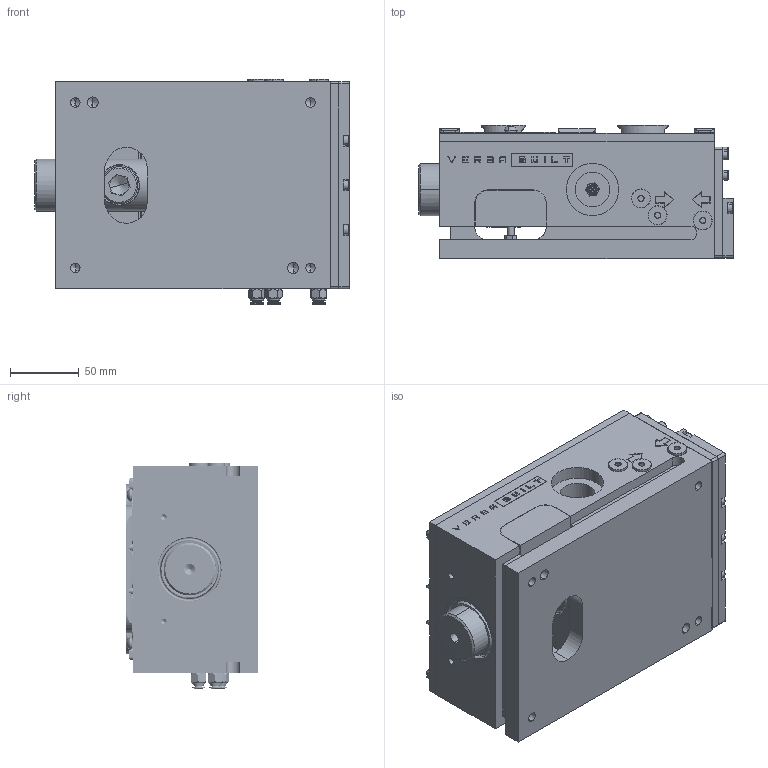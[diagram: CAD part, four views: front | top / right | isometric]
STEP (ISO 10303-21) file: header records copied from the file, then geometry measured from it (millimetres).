
FILE_DESCRIPTION (( 'STEP AP203' ), '1' );
FILE_NAME ('VERSABUILT MULTIGRIP VISE 2000 - STEEL TOP - 2025-05-14.STEP', '2025-05-15T15:00:11', ( '' ), ( '' ), 'SwSTEP 2.0', 'SolidWorks 2019', '' );
FILE_SCHEMA (( 'CONFIG_CONTROL_DESIGN' ));
Length unit declared in the file: inch
Products named in the file (34): M5 DOWEL PIN_DP M5 X 16mm; M5x0.8 HHCS_HHCS M5x0.8x16-C; M4x0.7 SHCS_SHCS M4-0.7 x 16; M5X0.80 BHCS_BHCS M5x0.8 x 10mm; 5014868_As Machined; 5008611_As Machined; 5008505_9452K24; M10x1.5 SHCS_SHCS M10-1.5 x 20 - LOW PROFILE; M8x1.25 FHCS_FHCS M8x1.25x12-C; M8x1.25 FHCS_FHCS M8x1.25x22-C; M4x0.7 SET SCREW_5011514; 5001681_51495K182; 5009563_MG 100 PISTON; 5014882_As Machined; 5010570_Default Configuration; 5010088_Default Configuration; 5013217_1095K111; M5x0.8 FHCS_M5x0.8 FHCS x 8mm; 5011369_Default Configuration; 5009523_Default Configuration; 5009520_Default Configuration; M8 DOWEL PIN_M8 DOWEL PIN x 30mm; M8x1.00 SHCS_M8x1.00 SHCS x 12; VERSABUILT MULTIGRIP VISE 2000 - STEEL TOP - 2025-05-14; M8 SEALING WASHER_93303A103; 5009562_MG FJ 100 VISE - END PLATE FACE SEAL; 5009522_Default Configuration; M8x1.25 SHCS_SHCS M8-1.25 x 16; 5009560_1504N19; 5010591_94669A031; M4x0.7 SHCS_SHCS M4-0.7 x 12; 5008663_91259A716; 5008713_Default Configuration; M18x2.5 SHCS_M18x2.5 SHCS x 30
Assembly tree (72 placements, depth 2):
  VERSABUILT MULTIGRIP VISE 2000 - STEEL TOP - 2025-05-14
    5014868_As Machined
    5010088_Default Configuration
    5009523_Default Configuration
    5014882_As Machined
    5009522_Default Configuration
    5008663_91259A716
    5008713_Default Configuration
    M8x1.25 FHCS_FHCS M8x1.25x22-C  x4
    M8x1.25 FHCS_FHCS M8x1.25x12-C  x2
    M10x1.5 SHCS_SHCS M10-1.5 x 20 - LOW PROFILE  x3
    M8 DOWEL PIN_M8 DOWEL PIN x 30mm  x2
    M5x0.8 FHCS_M5x0.8 FHCS x 8mm  x2
    M5X0.80 BHCS_BHCS M5x0.8 x 10mm  x2
    M8x1.25 SHCS_SHCS M8-1.25 x 16
    M4x0.7 SHCS_SHCS M4-0.7 x 12  x7
    M4x0.7 SHCS_SHCS M4-0.7 x 16  x7
    M5 DOWEL PIN_DP M5 X 16mm  x2
    M18x2.5 SHCS_M18x2.5 SHCS x 30
    M4x0.7 SET SCREW_5011514  x8
    M8x1.00 SHCS_M8x1.00 SHCS x 12
    M5x0.8 HHCS_HHCS M5x0.8x16-C  x2
    5010591_94669A031  x2
    5009560_1504N19  x3
    5010570_Default Configuration
    5009520_Default Configuration
    5011369_Default Configuration  x2
    5009563_MG 100 PISTON
    5008505_9452K24  x2
    5009562_MG FJ 100 VISE - END PLATE FACE SEAL
    M8 SEALING WASHER_93303A103
    5013217_1095K111
    5001681_51495K182  x3
    5008611_As Machined  x3
Bounding box: 229.36 x 96.91 x 164.71 mm (x, y, z)
Volume: 2381643 mm3; surface area: 459298.8 mm2
Topology: 84 solids, 88 shells, 3455 faces, 8209 edges, 4942 vertices
Faces by surface type: plane 1337, cylinder 1015, cone 741, torus 265, bspline 91, sphere 6
Entity records: 79372 total; most frequent: CARTESIAN_POINT 19913, DIRECTION 11815, ORIENTED_EDGE 11102, EDGE_CURVE 5551, AXIS2_PLACEMENT_3D 4464, VERTEX_POINT 3483, LINE 2887, VECTOR 2887
